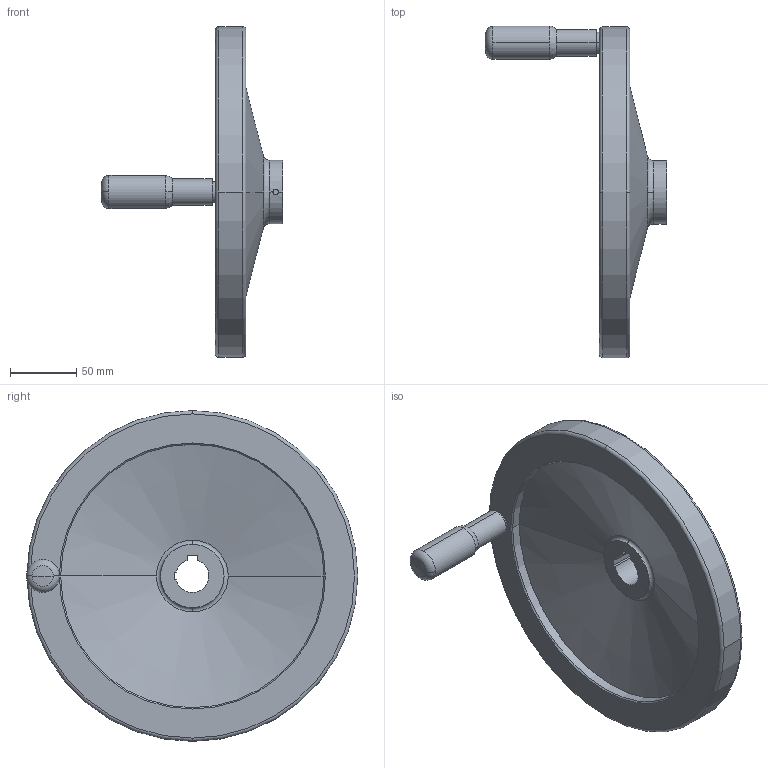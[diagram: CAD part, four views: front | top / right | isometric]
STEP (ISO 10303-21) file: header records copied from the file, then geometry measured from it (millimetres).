
FILE_DESCRIPTION (( 'STEP AP203' ), '1' );
FILE_NAME ('HR25025.STEP', '2024-01-16T10:56:13', ( '' ), ( '' ), 'SwSTEP 2.0', 'SolidWorks 2022', '' );
FILE_SCHEMA (( 'CONFIG_CONTROL_DESIGN' ));
Length unit declared in the file: millimetre
Products named in the file (1): HR25025
Bounding box: 137.43 x 250.5 x 250 mm (x, y, z)
Volume: 748964.7 mm3; surface area: 136454.3 mm2
Topology: 2 solids, 2 shells, 77 faces, 197 edges, 126 vertices
Faces by surface type: cylinder 27, plane 20, cone 14, torus 12, bspline 2, sphere 2
Entity records: 2716 total; most frequent: CARTESIAN_POINT 692, DIRECTION 445, ORIENTED_EDGE 394, EDGE_CURVE 197, AXIS2_PLACEMENT_3D 183, VERTEX_POINT 126, CIRCLE 107, EDGE_LOOP 85
